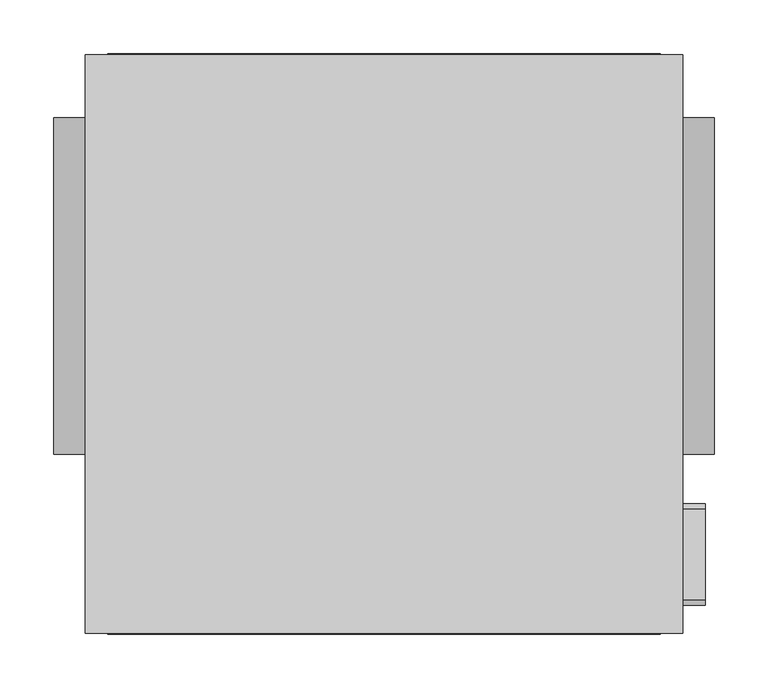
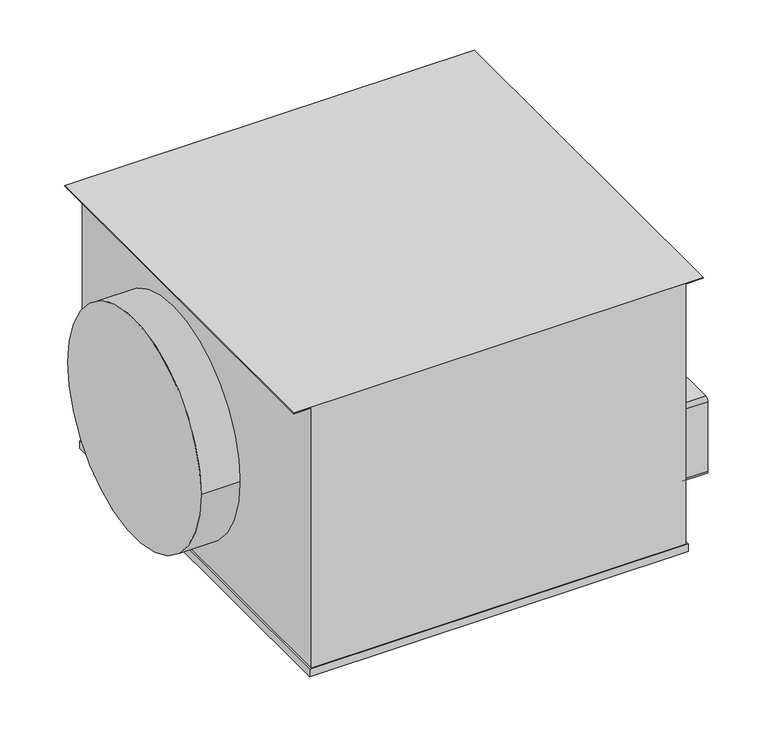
"""IFC4 building model written with IfcOpenShell, lengths in millimetres: unitary equipment geometry, VE-Wentylator-ParaForma-Harmann-ECOBOX_EC-Nawiewny : 315/1800EC."""

from ifc_helpers import new_model, si_unit, point, frame, frame_2d, origin, origin_2d, place, context, project, spatial, polyline, circle_curve, trimmed, segment, composite_curve, outline, extrude, source, transform, mapped, element, save


def unitary_equipment_63e0a872(model_context):
    return source(origin(), model_context, "Body", "SweptSolid", [
        extrude(outline(composite_curve([segment(trimmed(circle_curve(frame_2d((-293.1, -94.2)), 5.0), [point((-293.1, -99.2))], [point((-298.1, -94.2))], False, "CARTESIAN"), True, "CONTINUOUS"), segment(polyline([(-298.1, -94.2), (-298.1, 5.8)]), True, "CONTINUOUS"), segment(trimmed(circle_curve(frame_2d((-293.1, 5.8)), 5.0), [point((-298.1, 5.8))], [point((-293.1, 10.8))], False, "CARTESIAN"), True, "CONTINUOUS"), segment(polyline([(-293.1, 10.8), (-208.1, 10.8)]), True, "CONTINUOUS"), segment(trimmed(circle_curve(frame_2d((-208.1, 5.8)), 5.0), [point((-208.1, 10.8))], [point((-203.1, 5.8))], False, "CARTESIAN"), True, "CONTINUOUS"), segment(polyline([(-203.1, 5.8), (-203.1, -94.2)]), True, "CONTINUOUS"), segment(trimmed(circle_curve(frame_2d((-208.1, -94.2)), 5.0), [point((-203.1, -94.2))], [point((-208.1, -99.2))], False, "CARTESIAN"), True, "CONTINUOUS"), segment(polyline([(-208.1, -99.2), (-293.1, -99.2)]), True, "CONTINUOUS")], self_intersect=False)), frame((255.0, 0.0, 0.0), z_axis=(1.0, 0.0, 0.0), x_axis=(0.0, 1.0, 0.0)), (0.0, 0.0, 1.0), 45.0),
        extrude(outline(polyline([(-257.9, -325.1), (-257.9, 217.1), (257.9, 217.1), (257.9, -325.1), (-257.9, -325.1)])), frame((0.0, 0.0, -178.8), z_axis=(0.0, 0.0, 1.0), x_axis=(1.0, 0.0, 0.0)), (0.0, 0.0, 1.0), 10.8),
        extrude(outline(polyline([(208.0, -279.0), (207.0, -279.0), (207.0, -255.0), (-168.0, -255.0), (-168.0, 255.0), (207.0, 255.0), (207.0, 279.0), (208.0, 279.0), (208.0, -279.0)])), frame((0.0, -324.0, 0.0), z_axis=(0.0, 1.0, 0.0), x_axis=(0.0, 0.0, 1.0)), (0.0, 0.0, 1.0), 540.0),
        extrude(outline(composite_curve([segment(trimmed(circle_curve(origin_2d(), 157.0), [point((-157.0, 0.0))], [point((157.0, 0.0))], False, "CARTESIAN"), True, "CONTINUOUS"), segment(trimmed(circle_curve(origin_2d(), 157.0), [point((157.0, 0.0))], [point((-157.0, 0.0))], False, "CARTESIAN"), True, "CONTINUOUS")], self_intersect=False)), frame((255.0, 0.0, 0.0), z_axis=(1.0, 0.0, 0.0), x_axis=(0.0, 1.0, 0.0)), (0.0, 0.0, 1.0), 53.5),
        extrude(outline(composite_curve([segment(trimmed(circle_curve(origin_2d(), 157.0), [point((-157.0, 0.0))], [point((157.0, 0.0))], False, "CARTESIAN"), True, "CONTINUOUS"), segment(trimmed(circle_curve(origin_2d(), 157.0), [point((157.0, 0.0))], [point((-157.0, 0.0))], False, "CARTESIAN"), True, "CONTINUOUS")], self_intersect=False)), frame((-308.5, 0.0, 0.0), z_axis=(1.0, 0.0, 0.0), x_axis=(0.0, 1.0, 0.0)), (0.0, 0.0, 1.0), 53.5),
    ])


if __name__ == "__main__":
    model = new_model("IFC4")
    model_context = context("Model", 3, world=origin())
    ifc_project = project(units=[si_unit("LENGTHUNIT", "METRE", prefix="MILLI")], contexts=[model_context])
    site = spatial("IfcSite", under=ifc_project)
    building = spatial("IfcBuilding", under=site)
    placement = place(None, origin())
    unitary_equipment_shape = unitary_equipment_63e0a872(model_context)
    element("IfcUnitaryEquipment", 1, ObjectType="VE-Wentylator-ParaForma-Harmann-ECOBOX_EC-Nawiewny : 315/1800EC", at=placement, inside=building, context=model_context, shape_type="MappedRepresentation", body=[
        mapped(unitary_equipment_shape, transform((0.0, 0.0, 0.0), x_axis=(1.0, 0.0, 0.0), y_axis=(0.0, 1.0, 0.0), z_axis=(0.0, 0.0, 1.0))),
    ])
    save(model, "model.ifc")
